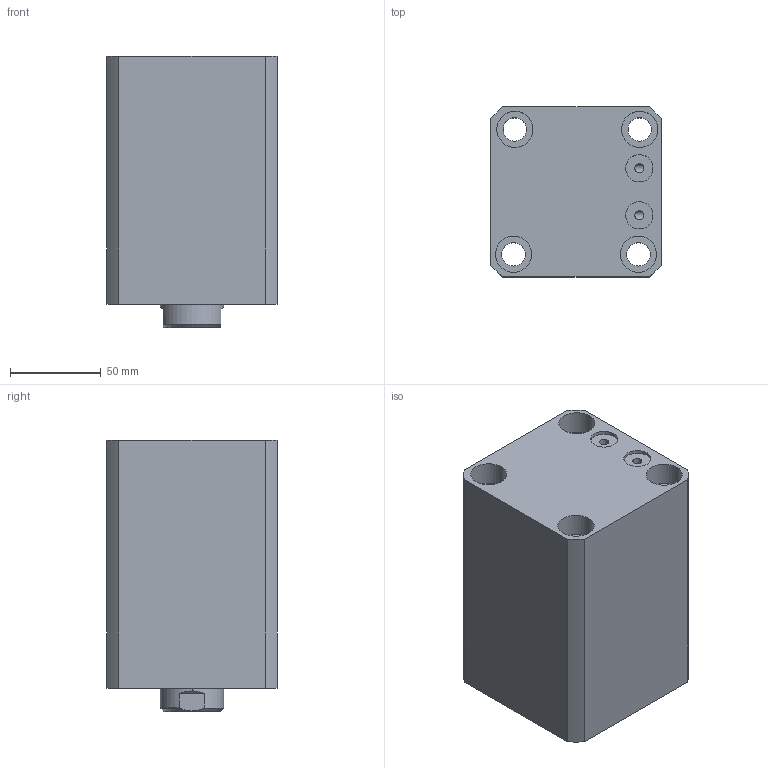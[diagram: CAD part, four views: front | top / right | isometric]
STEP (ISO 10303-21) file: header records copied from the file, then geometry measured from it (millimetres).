
FILE_DESCRIPTION (( 'STEP AP214' ), '1' );
FILE_NAME ('chtb-sdmb63x70n_asm.STEP', '2018-05-16T06:52:28', ( 'Windows' ), ( 'Microsoft' ), 'SwSTEP 2.0', 'SolidWorks 2015', '' );
FILE_SCHEMA (( 'AUTOMOTIVE_DESIGN' ));
Length unit declared in the file: millimetre
Products named in the file (4): CHTB-63QG; CHTB-SDMB63X70NBT; CHTB63X70NHSG; chtb-sdmb63x70n_asm
Assembly tree (3 placements, depth 2):
  chtb-sdmb63x70n_asm
    CHTB-63QG
    CHTB63X70NHSG
    CHTB-SDMB63X70NBT
Bounding box: 94 x 94 x 150 mm (x, y, z)
Volume: 956788.8 mm3; surface area: 162061.8 mm2
Topology: 3 solids, 3 shells, 164 faces, 468 edges, 318 vertices
Faces by surface type: cylinder 107, plane 30, bspline 12, cone 8, torus 7
Entity records: 17708 total; most frequent: CARTESIAN_POINT 13594, ORIENTED_EDGE 924, DIRECTION 707, EDGE_CURVE 462, VERTEX_POINT 318, AXIS2_PLACEMENT_3D 284, EDGE_LOOP 196, FACE_OUTER_BOUND 164
